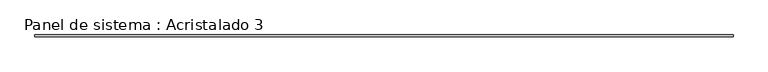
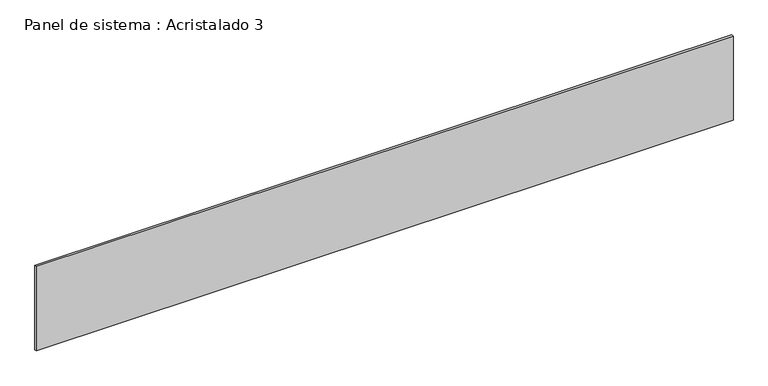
"""IFC4 building model written with IfcOpenShell, lengths in millimetres: plate geometry, Panel de sistema : Acristalado 3."""

from ifc_helpers import new_model, si_unit, origin, origin_with_axes, place, context, project, spatial, polyline, outline, extrude, source, transform, mapped, element, save


def panel_de_sistema_acristalado_3_434b2e34(model_context):
    return source(origin(), model_context, "Body", "SweptSolid", [
        extrude(outline(polyline([(3661.1111111, -110.0), (-3661.1111111, -110.0), (-3661.1111111, -90.0), (3661.1111111, -90.0), (3661.1111111, -110.0)])), origin_with_axes(), (0.0, 0.0, 1.0), 936.3914841),
    ])


if __name__ == "__main__":
    model = new_model("IFC4")
    model_context = context("Model", 3, world=origin())
    ifc_project = project(units=[si_unit("LENGTHUNIT", "METRE", prefix="MILLI")], contexts=[model_context])
    site = spatial("IfcSite", under=ifc_project)
    building = spatial("IfcBuilding", under=site)
    placement = place(None, origin())
    panel_de_sistema_acristalado_3_shape = panel_de_sistema_acristalado_3_434b2e34(model_context)
    element("IfcPlate", 1, ObjectType="Panel de sistema : Acristalado 3", at=placement, inside=building, context=model_context, shape_type="MappedRepresentation", body=[
        mapped(panel_de_sistema_acristalado_3_shape, transform((0.0, 0.0, 0.0), x_axis=(1.0, 0.0, 0.0), y_axis=(0.0, 1.0, 0.0), z_axis=(0.0, 0.0, 1.0))),
    ])
    save(model, "model.ifc")
